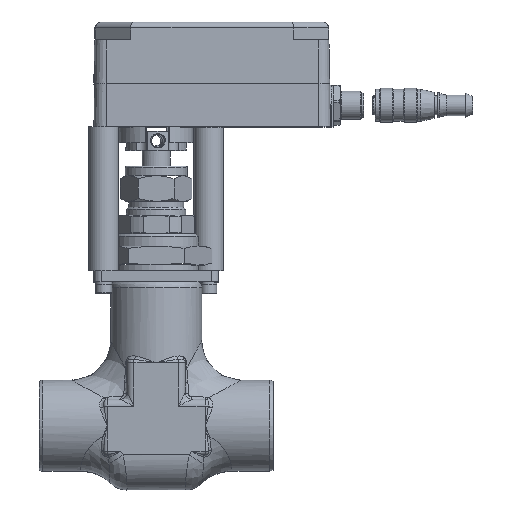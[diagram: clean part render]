
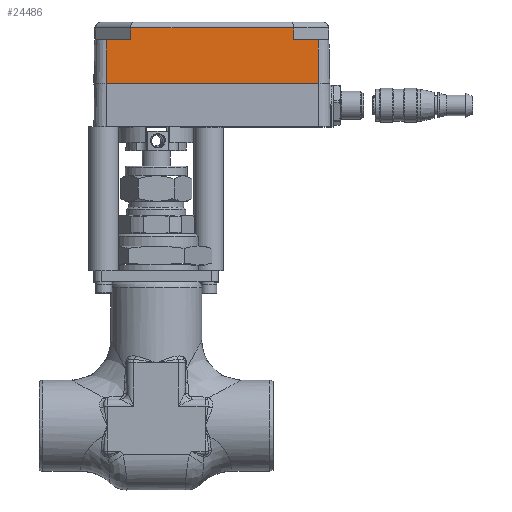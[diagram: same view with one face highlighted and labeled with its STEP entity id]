
A CAD part, top view. The second image highlights one B-rep face of the part: STEP entity #24486.
In plain terms, the highlighted planar face has unit normal (0.005, 0.018, 1).
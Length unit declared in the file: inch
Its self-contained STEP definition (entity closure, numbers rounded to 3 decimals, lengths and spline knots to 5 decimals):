
#114 = LINE ( 'NONE', #8370, #18135 ) ;
#982 = VERTEX_POINT ( 'NONE', #22093 ) ;
#1216 = CARTESIAN_POINT ( 'NONE',  ( 1.70113, 1.77724, 1.41887 ) ) ;
#1233 = CARTESIAN_POINT ( 'NONE',  ( 1.70116, 1.47724, 1.42411 ) ) ;
#1716 = CARTESIAN_POINT ( 'NONE',  ( 1.28593, 1.67898, 1.42286 ) ) ;
#1742 = EDGE_CURVE ( 'NONE', #5591, #14906, #4138, .T. ) ;
#1881 = VECTOR ( 'NONE', #10365, 39.37008 ) ;
#2112 = CARTESIAN_POINT ( 'NONE',  ( -1.87131, 1.47724, 1.44369 ) ) ;
#2229 = CARTESIAN_POINT ( 'NONE',  ( 1.70123, 0.73724, 1.43703 ) ) ;
#2248 = VECTOR ( 'NONE', #4440, 39.37008 ) ;
#2391 = ORIENTED_EDGE ( 'NONE', *, *, #12449, .T. ) ;
#3046 = VERTEX_POINT ( 'NONE', #5588 ) ;
#3257 = DIRECTION ( 'NONE',  ( 0., 1., -0.017 ) ) ;
#4138 = LINE ( 'NONE', #12392, #23268 ) ;
#4194 = ORIENTED_EDGE ( 'NONE', *, *, #11361, .T. ) ;
#4344 = EDGE_CURVE ( 'NONE', #5591, #13956, #13541, .T. ) ;
#4440 = DIRECTION ( 'NONE',  ( -1., 0., 0.005 ) ) ;
#5173 = DIRECTION ( 'NONE',  ( 0.005, 0.017, 1. ) ) ;
#5588 = CARTESIAN_POINT ( 'NONE',  ( 1.28741, 1.47724, 1.42638 ) ) ;
#5591 = VERTEX_POINT ( 'NONE', #14030 ) ;
#6193 = CARTESIAN_POINT ( 'NONE',  ( -1.45544, 1.77423, 1.43622 ) ) ;
#6604 = VERTEX_POINT ( 'NONE', #1233 ) ;
#7196 = FACE_OUTER_BOUND ( 'NONE', #14542, .T. ) ;
#7469 = LINE ( 'NONE', #15738, #8866 ) ;
#7539 = EDGE_CURVE ( 'NONE', #3046, #24651, #7469, .T. ) ;
#7791 = ORIENTED_EDGE ( 'NONE', *, *, #4344, .F. ) ;
#8370 = CARTESIAN_POINT ( 'NONE',  ( -1.87131, 1.47724, 1.44369 ) ) ;
#8866 = VECTOR ( 'NONE', #23990, 39.37008 ) ;
#9468 = DIRECTION ( 'NONE',  ( 0., -1., 0.017 ) ) ;
#10365 = DIRECTION ( 'NONE',  ( -1., 0., 0.005 ) ) ;
#10732 = CARTESIAN_POINT ( 'NONE',  ( -1.45756, 1.47724, 1.44142 ) ) ;
#11361 = EDGE_CURVE ( 'NONE', #6604, #3046, #114, .T. ) ;
#12392 = CARTESIAN_POINT ( 'NONE',  ( -1.87123, 0.73724, 1.4566 ) ) ;
#12449 = EDGE_CURVE ( 'NONE', #14236, #13956, #20669, .T. ) ;
#13421 = DIRECTION ( 'NONE',  ( 0., -1., 0.017 ) ) ;
#13541 = LINE ( 'NONE', #21810, #26249 ) ;
#13956 = VERTEX_POINT ( 'NONE', #19032 ) ;
#14030 = CARTESIAN_POINT ( 'NONE',  ( -1.87123, 0.73724, 1.4566 ) ) ;
#14236 = VERTEX_POINT ( 'NONE', #10732 ) ;
#14450 = DIRECTION ( 'NONE',  ( -0.007, -1., 0.017 ) ) ;
#14542 = EDGE_LOOP ( 'NONE', ( #17130, #25291, #21647, #2391, #7791, #17570, #22344, #4194 ) ) ;
#14725 = LINE ( 'NONE', #22991, #2248 ) ;
#14906 = VERTEX_POINT ( 'NONE', #2229 ) ;
#15466 = PLANE ( 'NONE',  #25138 ) ;
#15591 = VECTOR ( 'NONE', #14450, 39.37008 ) ;
#15738 = CARTESIAN_POINT ( 'NONE',  ( 1.28505, 1.80005, 1.42076 ) ) ;
#16630 = DIRECTION ( 'NONE',  ( -1., 0., 0.005 ) ) ;
#17130 = ORIENTED_EDGE ( 'NONE', *, *, #7539, .T. ) ;
#17570 = ORIENTED_EDGE ( 'NONE', *, *, #1742, .T. ) ;
#18135 = VECTOR ( 'NONE', #16630, 39.37008 ) ;
#19032 = CARTESIAN_POINT ( 'NONE',  ( -1.87131, 1.47724, 1.44369 ) ) ;
#19272 = EDGE_CURVE ( 'NONE', #982, #14236, #24731, .T. ) ;
#19770 = LINE ( 'NONE', #1216, #21290 ) ;
#20665 = DIRECTION ( 'NONE',  ( 1., 0., -0.005 ) ) ;
#20669 = LINE ( 'NONE', #2112, #1881 ) ;
#21290 = VECTOR ( 'NONE', #9468, 39.37008 ) ;
#21647 = ORIENTED_EDGE ( 'NONE', *, *, #19272, .T. ) ;
#21810 = CARTESIAN_POINT ( 'NONE',  ( -1.87123, 0.73724, 1.4566 ) ) ;
#22093 = CARTESIAN_POINT ( 'NONE',  ( -1.45612, 1.67898, 1.43789 ) ) ;
#22344 = ORIENTED_EDGE ( 'NONE', *, *, #25826, .F. ) ;
#22455 = EDGE_CURVE ( 'NONE', #24651, #982, #14725, .T. ) ;
#22991 = CARTESIAN_POINT ( 'NONE',  ( -1.87132, 1.67898, 1.44017 ) ) ;
#23268 = VECTOR ( 'NONE', #20665, 39.37008 ) ;
#23721 = CARTESIAN_POINT ( 'NONE',  ( -1.87133, 1.77724, 1.43845 ) ) ;
#23990 = DIRECTION ( 'NONE',  ( -0.007, 1., -0.017 ) ) ;
#24486 = ADVANCED_FACE ( 'NONE', ( #7196 ), #15466, .T. ) ;
#24651 = VERTEX_POINT ( 'NONE', #1716 ) ;
#24731 = LINE ( 'NONE', #6193, #15591 ) ;
#25138 = AXIS2_PLACEMENT_3D ( 'NONE', #23721, #5173, #13421 ) ;
#25291 = ORIENTED_EDGE ( 'NONE', *, *, #22455, .T. ) ;
#25826 = EDGE_CURVE ( 'NONE', #6604, #14906, #19770, .T. ) ;
#26249 = VECTOR ( 'NONE', #3257, 39.37008 ) ;
